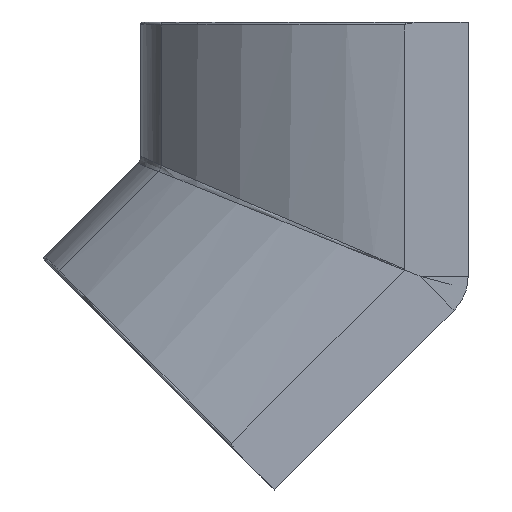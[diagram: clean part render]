
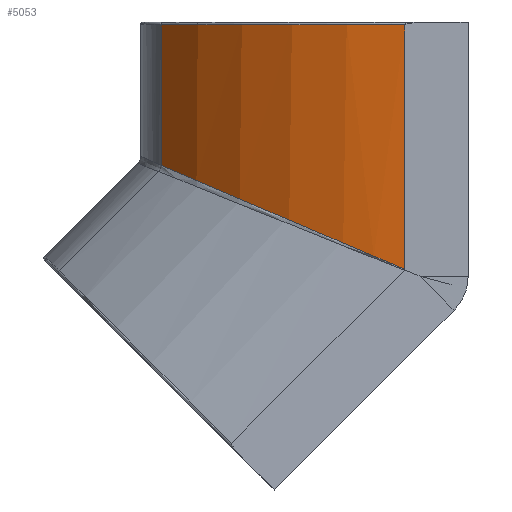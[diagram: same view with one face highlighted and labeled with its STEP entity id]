
A CAD part, front view. The second image highlights one B-rep face of the part: STEP entity #5053.
In plain terms, the highlighted cylindrical face has radius 18 mm (diameter 36 mm), a partial arc.
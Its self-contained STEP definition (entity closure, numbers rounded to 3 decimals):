
#252 =( BOUNDED_CURVE ( )  B_SPLINE_CURVE ( 3, ( #1448, #545, #2390, #5525 ),
 .UNSPECIFIED., .F., .F. ) 
 B_SPLINE_CURVE_WITH_KNOTS ( ( 4, 4 ),
 ( 0.576, 1.409 ),
 .UNSPECIFIED. ) 
 CURVE ( )  GEOMETRIC_REPRESENTATION_ITEM ( )  RATIONAL_B_SPLINE_CURVE ( ( 1., 0.943, 0.943, 1. ) ) 
 REPRESENTATION_ITEM ( '' )  );
#266 = VERTEX_POINT ( 'NONE', #4333 ) ;
#271 = DIRECTION ( 'NONE',  ( 0., 0., 1. ) ) ;
#545 = CARTESIAN_POINT ( 'NONE',  ( -23.663, -8.818, -1.882 ) ) ;
#631 = VECTOR ( 'NONE', #5808, 1000. ) ;
#1402 = DIRECTION ( 'NONE',  ( 0., 0., 1. ) ) ;
#1448 = CARTESIAN_POINT ( 'NONE',  ( -26.468, -4.5, -0.688 ) ) ;
#1457 = EDGE_CURVE ( 'NONE', #2680, #5100, #1834, .T. ) ;
#1660 = LINE ( 'NONE', #4768, #5026 ) ;
#1834 = LINE ( 'NONE', #3978, #631 ) ;
#2390 = CARTESIAN_POINT ( 'NONE',  ( -19.35, -11.631, -3.718 ) ) ;
#2586 = EDGE_CURVE ( 'NONE', #5100, #5328, #4515, .T. ) ;
#2680 = VERTEX_POINT ( 'NONE', #4002 ) ;
#2710 = EDGE_LOOP ( 'NONE', ( #4282, #3753, #3670, #4667 ) ) ;
#3055 = CARTESIAN_POINT ( 'NONE',  ( -11.375, 5.308, 6.35 ) ) ;
#3076 = EDGE_CURVE ( 'NONE', #266, #5328, #1660, .T. ) ;
#3111 = FACE_OUTER_BOUND ( 'NONE', #2710, .T. ) ;
#3482 = CYLINDRICAL_SURFACE ( 'NONE', #5167, 18. ) ;
#3644 = DIRECTION ( 'NONE',  ( 1., 0., 0. ) ) ;
#3670 = ORIENTED_EDGE ( 'NONE', *, *, #3076, .F. ) ;
#3753 = ORIENTED_EDGE ( 'NONE', *, *, #2586, .T. ) ;
#3978 = CARTESIAN_POINT ( 'NONE',  ( -14.268, -12.458, -8. ) ) ;
#4002 = CARTESIAN_POINT ( 'NONE',  ( -14.268, -12.458, -5.882 ) ) ;
#4151 = CARTESIAN_POINT ( 'NONE',  ( -11.375, 5.308, -8. ) ) ;
#4246 = AXIS2_PLACEMENT_3D ( 'NONE', #3055, #5757, #5816 ) ;
#4278 = EDGE_CURVE ( 'NONE', #266, #2680, #252, .T. ) ;
#4282 = ORIENTED_EDGE ( 'NONE', *, *, #1457, .T. ) ;
#4333 = CARTESIAN_POINT ( 'NONE',  ( -26.468, -4.5, -0.688 ) ) ;
#4515 = CIRCLE ( 'NONE', #4246, 18. ) ;
#4667 = ORIENTED_EDGE ( 'NONE', *, *, #4278, .T. ) ;
#4700 = CARTESIAN_POINT ( 'NONE',  ( -14.268, -12.458, 6.35 ) ) ;
#4768 = CARTESIAN_POINT ( 'NONE',  ( -26.468, -4.5, -8. ) ) ;
#5026 = VECTOR ( 'NONE', #271, 1000. ) ;
#5053 = ADVANCED_FACE ( 'NONE', ( #3111 ), #3482, .T. ) ;
#5100 = VERTEX_POINT ( 'NONE', #4700 ) ;
#5167 = AXIS2_PLACEMENT_3D ( 'NONE', #4151, #1402, #3644 ) ;
#5328 = VERTEX_POINT ( 'NONE', #5781 ) ;
#5525 = CARTESIAN_POINT ( 'NONE',  ( -14.268, -12.458, -5.882 ) ) ;
#5757 = DIRECTION ( 'NONE',  ( 0., 0., -1. ) ) ;
#5781 = CARTESIAN_POINT ( 'NONE',  ( -26.468, -4.5, 6.35 ) ) ;
#5808 = DIRECTION ( 'NONE',  ( 0., 0., 1. ) ) ;
#5816 = DIRECTION ( 'NONE',  ( -1., 0., 0. ) ) ;
